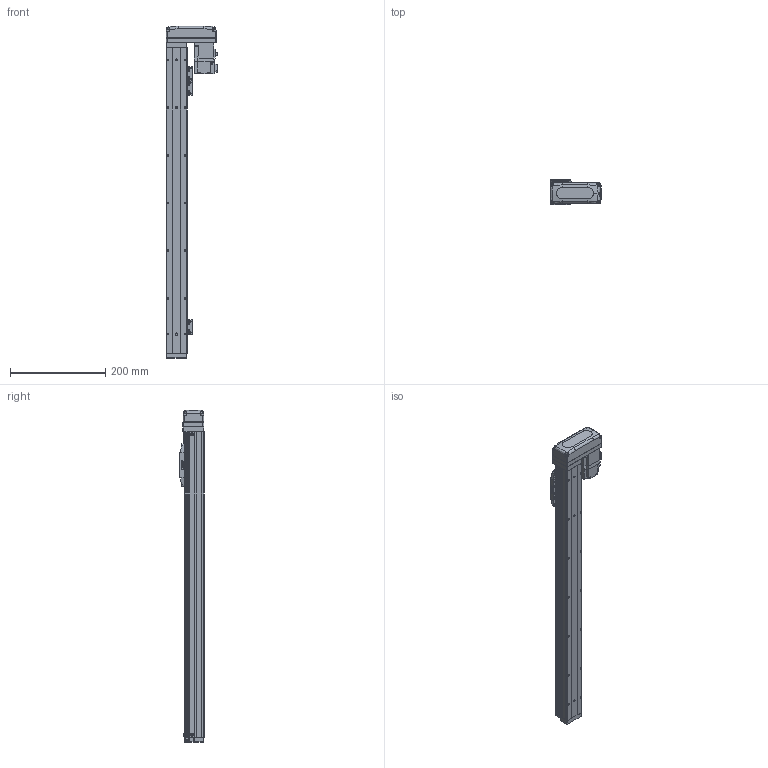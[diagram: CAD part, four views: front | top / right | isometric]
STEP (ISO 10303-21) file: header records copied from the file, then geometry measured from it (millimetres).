
FILE_DESCRIPTION (( 'STEP AP203' ), '1' );
FILE_NAME ('BTH40-500-BL-M05-C4.step', '2021-12-16T00:15:49', ( '微软用户' ), ( '微软中国' ), 'SwSTEP 2.0', 'SolidWorks 2020', '' );
FILE_SCHEMA (( 'CONFIG_CONTROL_DESIGN' ));
Length unit declared in the file: millimetre
Products named in the file (19): BTH40-013; BTH40-001-50_BTH40-001-500; BTH50-024; HG-KR13; BTH40-003; GBT 70.1-M3℅6; GBT 70.3-M3℅6; BTH40-006; GBT96.1-2002 3×0.8; BTH40-027-1; BTH-M3X5X6; BTH40-022; BTH50-026; GBT70.1-2000 M3×16; GBT 70.1-M2.5×6; BTH40-500-BL-M05-C4; BTH50-028; BTH40-004; BTH50-023
Assembly tree (47 placements, depth 2):
  BTH40-500-BL-M05-C4
    BTH40-001-50_BTH40-001-500
    BTH40-003
    BTH40-006
    BTH-M3X5X6  x8
    GBT70.1-2000 M3×16  x4
    BTH50-028  x2
    BTH50-023  x3
    BTH50-024  x3
    GBT 70.1-M3℅6  x6
    GBT96.1-2002 3×0.8  x6
    BTH40-022
    GBT 70.1-M2.5×6  x2
    BTH40-004
    BTH40-013
    HG-KR13
    GBT 70.3-M3℅6  x4
    BTH40-027-1
    BTH50-026
Bounding box: 108.8 x 52 x 696 mm (x, y, z)
Volume: 1278129 mm3; surface area: 226648.3 mm2
Topology: 49 solids, 49 shells, 1983 faces, 4659 edges, 2866 vertices
Faces by surface type: plane 1052, cylinder 495, cone 270, torus 128, bspline 34, sphere 4
Entity records: 39691 total; most frequent: CARTESIAN_POINT 7594, DIRECTION 6224, ORIENTED_EDGE 5964, EDGE_CURVE 2982, AXIS2_PLACEMENT_3D 2131, LINE 1962, VECTOR 1962, VERTEX_POINT 1853
